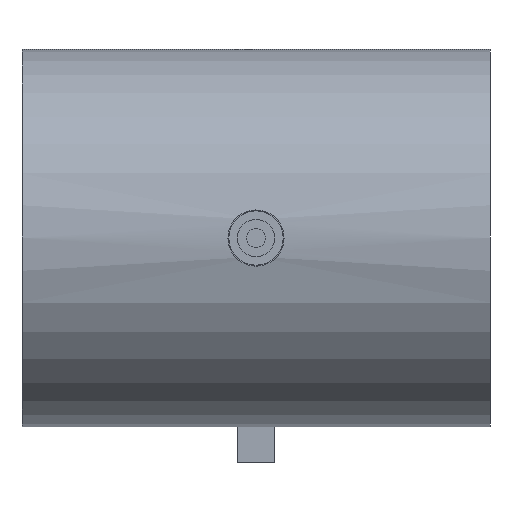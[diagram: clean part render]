
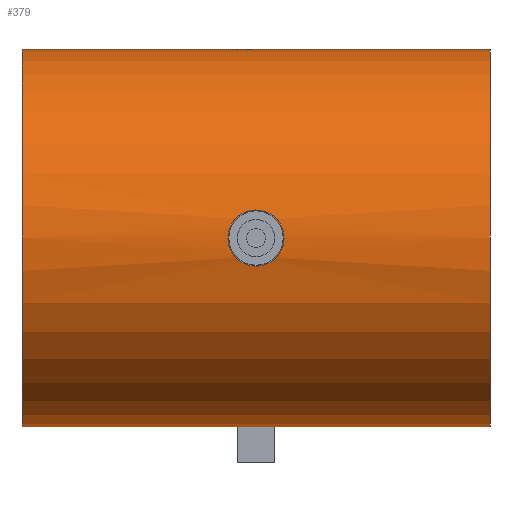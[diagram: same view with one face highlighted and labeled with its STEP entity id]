
A CAD part, front view. The second image highlights one B-rep face of the part: STEP entity #379.
In plain terms, the highlighted cylindrical face has radius 100.8 mm (diameter 201.6 mm), a full revolution.
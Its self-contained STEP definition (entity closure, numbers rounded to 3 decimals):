
#181=B_SPLINE_CURVE_WITH_KNOTS('',3,(#1629,#1630,#1631,#1632,#1633,#1634,
#1635,#1636,#1637,#1638,#1639,#1640,#1641,#1642,#1643,#1644,#1645,#1646),
 .UNSPECIFIED.,.T.,.F.,(2,2,2,2,2,2,2,2,2,2,2),(-0.125,0.,0.125,0.25,0.375,
0.5,0.625,0.75,0.875,1.,1.125),.UNSPECIFIED.);
#182=B_SPLINE_CURVE_WITH_KNOTS('',3,(#1648,#1649,#1650,#1651,#1652,#1653,
#1654,#1655,#1656,#1657,#1658,#1659,#1660,#1661,#1662,#1663,#1664,#1665),
 .UNSPECIFIED.,.T.,.F.,(2,2,2,2,2,2,2,2,2,2,2),(-0.125,0.,0.125,0.25,0.375,
0.5,0.625,0.75,0.875,1.,1.125),.UNSPECIFIED.);
#216=CYLINDRICAL_SURFACE('',#1155,100.8);
#272=FACE_BOUND('',#531,.T.);
#273=FACE_BOUND('',#532,.T.);
#274=FACE_BOUND('',#533,.T.);
#275=FACE_BOUND('',#534,.T.);
#379=ADVANCED_FACE('',(#272,#273,#274,#275),#216,.T.);
#531=EDGE_LOOP('',(#673));
#532=EDGE_LOOP('',(#674));
#533=EDGE_LOOP('',(#675));
#534=EDGE_LOOP('',(#676));
#673=ORIENTED_EDGE('',*,*,#967,.F.);
#674=ORIENTED_EDGE('',*,*,#968,.F.);
#675=ORIENTED_EDGE('',*,*,#963,.T.);
#676=ORIENTED_EDGE('',*,*,#965,.T.);
#871=VERTEX_POINT('',#1620);
#873=VERTEX_POINT('',#1625);
#875=VERTEX_POINT('',#1647);
#876=VERTEX_POINT('',#1666);
#963=EDGE_CURVE('',#871,#871,#1071,.T.);
#965=EDGE_CURVE('',#873,#873,#1073,.T.);
#967=EDGE_CURVE('',#875,#875,#181,.T.);
#968=EDGE_CURVE('',#876,#876,#182,.T.);
#1071=CIRCLE('',#1149,100.8);
#1073=CIRCLE('',#1152,100.8);
#1149=AXIS2_PLACEMENT_3D('',#1619,#1317,#1318);
#1152=AXIS2_PLACEMENT_3D('',#1624,#1323,#1324);
#1155=AXIS2_PLACEMENT_3D('',#1667,#1329,#1330);
#1317=DIRECTION('',(-1.,0.,0.));
#1318=DIRECTION('',(0.,0.,1.));
#1323=DIRECTION('',(1.,0.,0.));
#1324=DIRECTION('',(0.,0.,-1.));
#1329=DIRECTION('',(1.,0.,0.));
#1330=DIRECTION('',(0.,0.,-1.));
#1619=CARTESIAN_POINT('',(125.,-51.,125.));
#1620=CARTESIAN_POINT('',(125.,-51.,225.8));
#1624=CARTESIAN_POINT('',(-125.,-51.,125.));
#1625=CARTESIAN_POINT('',(-125.,-51.,24.2));
#1629=CARTESIAN_POINT('',(2.644,49.303,115.));
#1630=CARTESIAN_POINT('',(-2.644,49.303,115.));
#1631=CARTESIAN_POINT('',(-5.228,49.422,116.086));
#1632=CARTESIAN_POINT('',(-8.915,49.681,119.774));
#1633=CARTESIAN_POINT('',(-9.999,49.8,122.384));
#1634=CARTESIAN_POINT('',(-10.001,49.8,127.605));
#1635=CARTESIAN_POINT('',(-8.941,49.683,130.2));
#1636=CARTESIAN_POINT('',(-5.208,49.421,133.936));
#1637=CARTESIAN_POINT('',(-2.615,49.303,134.999));
#1638=CARTESIAN_POINT('',(2.607,49.303,135.001));
#1639=CARTESIAN_POINT('',(5.219,49.422,133.92));
#1640=CARTESIAN_POINT('',(8.91,49.681,130.236));
#1641=CARTESIAN_POINT('',(9.997,49.8,127.652));
#1642=CARTESIAN_POINT('',(10.003,49.8,122.367));
#1643=CARTESIAN_POINT('',(8.919,49.682,119.78));
#1644=CARTESIAN_POINT('',(5.234,49.422,116.089));
#1645=CARTESIAN_POINT('',(2.644,49.303,115.));
#1646=CARTESIAN_POINT('',(-2.644,49.303,115.));
#1647=CARTESIAN_POINT('',(0.,49.303,115.));
#1648=CARTESIAN_POINT('',(-2.644,-151.303,115.));
#1649=CARTESIAN_POINT('',(2.644,-151.303,115.));
#1650=CARTESIAN_POINT('',(5.228,-151.422,116.086));
#1651=CARTESIAN_POINT('',(8.915,-151.681,119.774));
#1652=CARTESIAN_POINT('',(9.999,-151.8,122.384));
#1653=CARTESIAN_POINT('',(10.001,-151.8,127.605));
#1654=CARTESIAN_POINT('',(8.941,-151.683,130.2));
#1655=CARTESIAN_POINT('',(5.208,-151.421,133.936));
#1656=CARTESIAN_POINT('',(2.615,-151.303,134.999));
#1657=CARTESIAN_POINT('',(-2.607,-151.303,135.001));
#1658=CARTESIAN_POINT('',(-5.219,-151.422,133.92));
#1659=CARTESIAN_POINT('',(-8.91,-151.681,130.236));
#1660=CARTESIAN_POINT('',(-9.997,-151.8,127.652));
#1661=CARTESIAN_POINT('',(-10.003,-151.8,122.367));
#1662=CARTESIAN_POINT('',(-8.919,-151.682,119.78));
#1663=CARTESIAN_POINT('',(-5.234,-151.422,116.089));
#1664=CARTESIAN_POINT('',(-2.644,-151.303,115.));
#1665=CARTESIAN_POINT('',(2.644,-151.303,115.));
#1666=CARTESIAN_POINT('',(0.,-151.303,115.));
#1667=CARTESIAN_POINT('',(-125.,-51.,125.));
